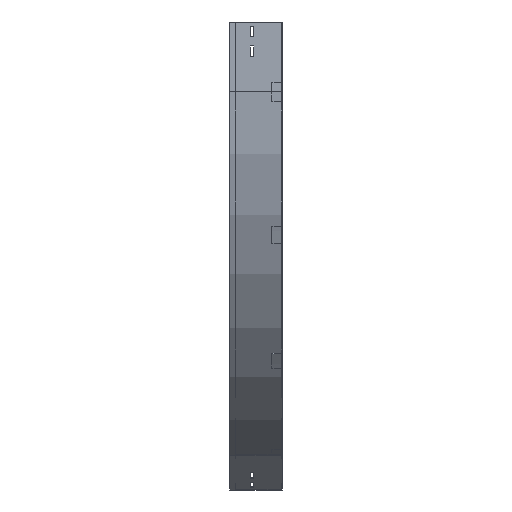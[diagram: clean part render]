
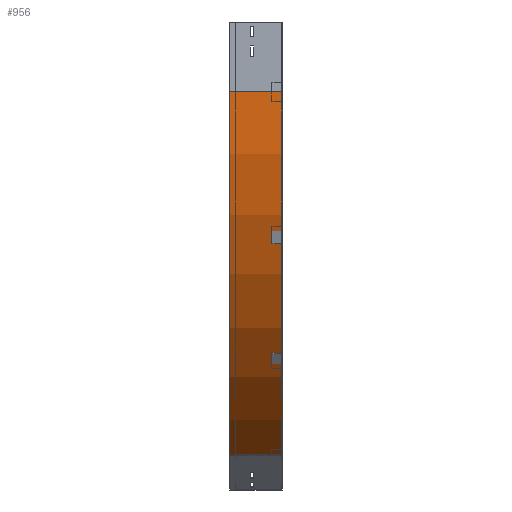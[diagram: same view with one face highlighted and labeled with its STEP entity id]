
A CAD part, left-side view. The second image highlights one B-rep face of the part: STEP entity #956.
In plain terms, the highlighted cylindrical face has radius 900 mm (diameter 1800 mm), a partial arc.
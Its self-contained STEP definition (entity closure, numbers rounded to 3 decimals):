
#269 = CIRCLE ( 'NONE', #2389, 900. ) ;
#304 = EDGE_CURVE ( 'NONE', #2745, #2413, #3396, .T. ) ;
#324 = VERTEX_POINT ( 'NONE', #1682 ) ;
#334 = CARTESIAN_POINT ( 'NONE',  ( 900., 112.5, -150. ) ) ;
#458 = CARTESIAN_POINT ( 'NONE',  ( 450., 0., -929.423 ) ) ;
#508 = EDGE_LOOP ( 'NONE', ( #672, #1312, #3579, #3608 ) ) ;
#628 = VECTOR ( 'NONE', #1386, 1000. ) ;
#648 = DIRECTION ( 'NONE',  ( 0., -1., 0. ) ) ;
#672 = ORIENTED_EDGE ( 'NONE', *, *, #2102, .F. ) ;
#956 = ADVANCED_FACE ( 'NONE', ( #3093 ), #3053, .T. ) ;
#1312 = ORIENTED_EDGE ( 'NONE', *, *, #304, .F. ) ;
#1386 = DIRECTION ( 'NONE',  ( 0., -1., 0. ) ) ;
#1453 = AXIS2_PLACEMENT_3D ( 'NONE', #334, #648, #3330 ) ;
#1682 = CARTESIAN_POINT ( 'NONE',  ( 450., 0., -929.423 ) ) ;
#1912 = EDGE_CURVE ( 'NONE', #2745, #2529, #2760, .T. ) ;
#1978 = LINE ( 'NONE', #458, #628 ) ;
#2041 = DIRECTION ( 'NONE',  ( 0., -1., 0. ) ) ;
#2102 = EDGE_CURVE ( 'NONE', #2413, #324, #269, .T. ) ;
#2155 = CARTESIAN_POINT ( 'NONE',  ( 0., 0., -150. ) ) ;
#2235 = DIRECTION ( 'NONE',  ( 0., 0., -1. ) ) ;
#2272 = CARTESIAN_POINT ( 'NONE',  ( 0., 0., -150. ) ) ;
#2308 = CARTESIAN_POINT ( 'NONE',  ( 900., 0., -150. ) ) ;
#2389 = AXIS2_PLACEMENT_3D ( 'NONE', #2308, #2041, #3284 ) ;
#2413 = VERTEX_POINT ( 'NONE', #2272 ) ;
#2468 = CARTESIAN_POINT ( 'NONE',  ( 900., 0., -150. ) ) ;
#2529 = VERTEX_POINT ( 'NONE', #3575 ) ;
#2745 = VERTEX_POINT ( 'NONE', #3338 ) ;
#2760 = CIRCLE ( 'NONE', #1453, 900. ) ;
#2857 = EDGE_CURVE ( 'NONE', #2529, #324, #1978, .T. ) ;
#2896 = VECTOR ( 'NONE', #3339, 1000. ) ;
#2956 = AXIS2_PLACEMENT_3D ( 'NONE', #2468, #3701, #2235 ) ;
#3053 = CYLINDRICAL_SURFACE ( 'NONE', #2956, 900. ) ;
#3093 = FACE_OUTER_BOUND ( 'NONE', #508, .T. ) ;
#3284 = DIRECTION ( 'NONE',  ( -1., 0., 0. ) ) ;
#3330 = DIRECTION ( 'NONE',  ( -1., 0., 0. ) ) ;
#3338 = CARTESIAN_POINT ( 'NONE',  ( 0., 112.5, -150. ) ) ;
#3339 = DIRECTION ( 'NONE',  ( 0., -1., 0. ) ) ;
#3396 = LINE ( 'NONE', #2155, #2896 ) ;
#3575 = CARTESIAN_POINT ( 'NONE',  ( 450., 112.5, -929.423 ) ) ;
#3579 = ORIENTED_EDGE ( 'NONE', *, *, #1912, .T. ) ;
#3608 = ORIENTED_EDGE ( 'NONE', *, *, #2857, .T. ) ;
#3701 = DIRECTION ( 'NONE',  ( 0., -1., 0. ) ) ;
